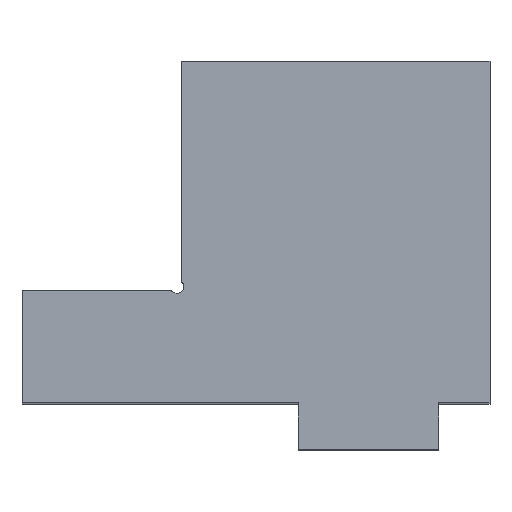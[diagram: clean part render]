
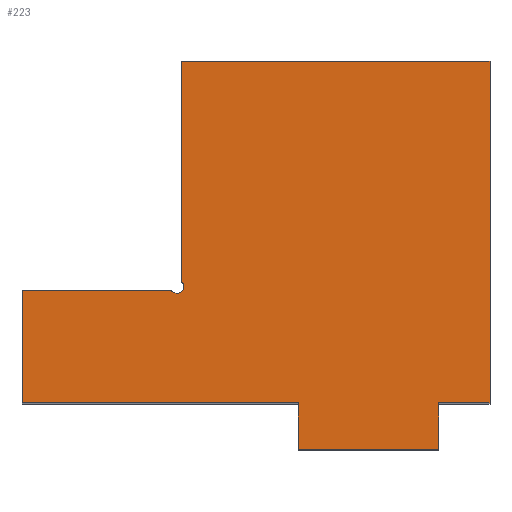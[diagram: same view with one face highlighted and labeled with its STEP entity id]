
A CAD part, top view. The second image highlights one B-rep face of the part: STEP entity #223.
In plain terms, the highlighted planar face has unit normal (0, 0, 1).
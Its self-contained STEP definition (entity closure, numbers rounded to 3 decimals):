
#223 = ADVANCED_FACE ( 'NONE', ( #941 ), #945, .T. ) ;
#224 = EDGE_LOOP ( 'NONE', ( #342, #344, #345, #348, #350, #386, #387, #388, #389, #390, #391, #392, #393, #394 ) ) ;
#230 = EDGE_CURVE ( 'NONE', #417, #423, #896, .T. ) ;
#246 = VERTEX_POINT ( 'NONE', #1257 ) ;
#261 = VERTEX_POINT ( 'NONE', #1145 ) ;
#263 = EDGE_CURVE ( 'NONE', #423, #261, #1144, .T. ) ;
#295 = VERTEX_POINT ( 'NONE', #1215 ) ;
#297 = EDGE_CURVE ( 'NONE', #377, #295, #1214, .T. ) ;
#342 = ORIENTED_EDGE ( 'NONE', *, *, #343, .F. ) ;
#343 = EDGE_CURVE ( 'NONE', #508, #295, #1104, .T. ) ;
#344 = ORIENTED_EDGE ( 'NONE', *, *, #466, .F. ) ;
#345 = ORIENTED_EDGE ( 'NONE', *, *, #346, .F. ) ;
#346 = EDGE_CURVE ( 'NONE', #347, #492, #1100, .T. ) ;
#347 = VERTEX_POINT ( 'NONE', #1095 ) ;
#348 = ORIENTED_EDGE ( 'NONE', *, *, #349, .F. ) ;
#349 = EDGE_CURVE ( 'NONE', #356, #347, #1094, .T. ) ;
#350 = ORIENTED_EDGE ( 'NONE', *, *, #355, .T. ) ;
#355 = EDGE_CURVE ( 'NONE', #356, #410, #1183, .T. ) ;
#356 = VERTEX_POINT ( 'NONE', #1179 ) ;
#377 = VERTEX_POINT ( 'NONE', #1083 ) ;
#379 = EDGE_CURVE ( 'NONE', #455, #377, #1082, .T. ) ;
#386 = ORIENTED_EDGE ( 'NONE', *, *, #409, .T. ) ;
#387 = ORIENTED_EDGE ( 'NONE', *, *, #431, .T. ) ;
#388 = ORIENTED_EDGE ( 'NONE', *, *, #230, .T. ) ;
#389 = ORIENTED_EDGE ( 'NONE', *, *, #263, .T. ) ;
#390 = ORIENTED_EDGE ( 'NONE', *, *, #407, .T. ) ;
#391 = ORIENTED_EDGE ( 'NONE', *, *, #447, .T. ) ;
#392 = ORIENTED_EDGE ( 'NONE', *, *, #457, .T. ) ;
#393 = ORIENTED_EDGE ( 'NONE', *, *, #379, .T. ) ;
#394 = ORIENTED_EDGE ( 'NONE', *, *, #297, .T. ) ;
#405 = VERTEX_POINT ( 'NONE', #1048 ) ;
#407 = EDGE_CURVE ( 'NONE', #261, #405, #1047, .T. ) ;
#409 = EDGE_CURVE ( 'NONE', #410, #246, #1043, .T. ) ;
#410 = VERTEX_POINT ( 'NONE', #1039 ) ;
#417 = VERTEX_POINT ( 'NONE', #1475 ) ;
#423 = VERTEX_POINT ( 'NONE', #1468 ) ;
#431 = EDGE_CURVE ( 'NONE', #246, #417, #1463, .T. ) ;
#445 = VERTEX_POINT ( 'NONE', #1441 ) ;
#447 = EDGE_CURVE ( 'NONE', #405, #445, #1440, .T. ) ;
#455 = VERTEX_POINT ( 'NONE', #1421 ) ;
#457 = EDGE_CURVE ( 'NONE', #445, #455, #1420, .T. ) ;
#466 = EDGE_CURVE ( 'NONE', #492, #508, #1393, .T. ) ;
#492 = VERTEX_POINT ( 'NONE', #1516 ) ;
#508 = VERTEX_POINT ( 'NONE', #1489 ) ;
#893 = DIRECTION ( 'NONE',  ( 0., -1., 0. ) ) ;
#894 = VECTOR ( 'NONE', #893, 1000. ) ;
#895 = CARTESIAN_POINT ( 'NONE',  ( -15., 10., 80.2 ) ) ;
#896 = LINE ( 'NONE', #895, #894 ) ;
#936 = DIRECTION ( 'NONE',  ( 1., 0., 0. ) ) ;
#937 = DIRECTION ( 'NONE',  ( 0., 0., 1. ) ) ;
#938 = CARTESIAN_POINT ( 'NONE',  ( -74., 10., 80.2 ) ) ;
#940 = AXIS2_PLACEMENT_3D ( 'NONE', #938, #937, #936 ) ;
#941 = FACE_OUTER_BOUND ( 'NONE', #224, .T. ) ;
#945 = PLANE ( 'NONE',  #940 ) ;
#1039 = CARTESIAN_POINT ( 'NONE',  ( -74., 34., 80.2 ) ) ;
#1040 = DIRECTION ( 'NONE',  ( 0., -1., 0. ) ) ;
#1041 = VECTOR ( 'NONE', #1040, 1000. ) ;
#1042 = CARTESIAN_POINT ( 'NONE',  ( -74., 34., 80.2 ) ) ;
#1043 = LINE ( 'NONE', #1042, #1041 ) ;
#1044 = DIRECTION ( 'NONE',  ( 0., 1., 0. ) ) ;
#1045 = VECTOR ( 'NONE', #1044, 1000. ) ;
#1046 = CARTESIAN_POINT ( 'NONE',  ( 15., 0., 80.2 ) ) ;
#1047 = LINE ( 'NONE', #1046, #1045 ) ;
#1048 = CARTESIAN_POINT ( 'NONE',  ( 15., 10., 80.2 ) ) ;
#1079 = DIRECTION ( 'NONE',  ( -1., 0., 0. ) ) ;
#1080 = VECTOR ( 'NONE', #1079, 1000. ) ;
#1081 = CARTESIAN_POINT ( 'NONE',  ( 26., 83., 80.2 ) ) ;
#1082 = LINE ( 'NONE', #1081, #1080 ) ;
#1083 = CARTESIAN_POINT ( 'NONE',  ( -40., 83., 80.2 ) ) ;
#1092 = VECTOR ( 'NONE', #1189, 1000. ) ;
#1093 = CARTESIAN_POINT ( 'NONE',  ( -42.121, 34., 80.2 ) ) ;
#1094 = LINE ( 'NONE', #1093, #1092 ) ;
#1095 = CARTESIAN_POINT ( 'NONE',  ( -41.961, 33.839, 80.2 ) ) ;
#1096 = DIRECTION ( 'NONE',  ( 1., 0., 0. ) ) ;
#1097 = DIRECTION ( 'NONE',  ( 0., 0., 1. ) ) ;
#1098 = CARTESIAN_POINT ( 'NONE',  ( -40.9, 34.9, 80.2 ) ) ;
#1099 = AXIS2_PLACEMENT_3D ( 'NONE', #1098, #1097, #1096 ) ;
#1100 = CIRCLE ( 'NONE', #1099, 1.5 ) ;
#1101 = DIRECTION ( 'NONE',  ( -0.707, 0.707, 0. ) ) ;
#1102 = VECTOR ( 'NONE', #1101, 1000. ) ;
#1103 = CARTESIAN_POINT ( 'NONE',  ( -40., 36.121, 80.2 ) ) ;
#1104 = LINE ( 'NONE', #1103, #1102 ) ;
#1141 = DIRECTION ( 'NONE',  ( 1., 0., 0. ) ) ;
#1142 = VECTOR ( 'NONE', #1141, 1000. ) ;
#1143 = CARTESIAN_POINT ( 'NONE',  ( -15., 0., 80.2 ) ) ;
#1144 = LINE ( 'NONE', #1143, #1142 ) ;
#1145 = CARTESIAN_POINT ( 'NONE',  ( 15., 0., 80.2 ) ) ;
#1179 = CARTESIAN_POINT ( 'NONE',  ( -42.121, 34., 80.2 ) ) ;
#1180 = DIRECTION ( 'NONE',  ( -1., 0., 0. ) ) ;
#1181 = VECTOR ( 'NONE', #1180, 1000. ) ;
#1182 = CARTESIAN_POINT ( 'NONE',  ( -74., 34., 80.2 ) ) ;
#1183 = LINE ( 'NONE', #1182, #1181 ) ;
#1189 = DIRECTION ( 'NONE',  ( 0.707, -0.707, 0. ) ) ;
#1211 = DIRECTION ( 'NONE',  ( 0., -1., 0. ) ) ;
#1212 = VECTOR ( 'NONE', #1211, 1000. ) ;
#1213 = CARTESIAN_POINT ( 'NONE',  ( -40., 83., 80.2 ) ) ;
#1214 = LINE ( 'NONE', #1213, #1212 ) ;
#1215 = CARTESIAN_POINT ( 'NONE',  ( -40., 36.121, 80.2 ) ) ;
#1257 = CARTESIAN_POINT ( 'NONE',  ( -74., 10., 80.2 ) ) ;
#1389 = DIRECTION ( 'NONE',  ( 1., 0., 0. ) ) ;
#1390 = DIRECTION ( 'NONE',  ( 0., 0., 1. ) ) ;
#1391 = CARTESIAN_POINT ( 'NONE',  ( -40.9, 34.9, 80.2 ) ) ;
#1392 = AXIS2_PLACEMENT_3D ( 'NONE', #1391, #1390, #1389 ) ;
#1393 = CIRCLE ( 'NONE', #1392, 1.5 ) ;
#1417 = DIRECTION ( 'NONE',  ( 0., 1., 0. ) ) ;
#1418 = VECTOR ( 'NONE', #1417, 1000. ) ;
#1419 = CARTESIAN_POINT ( 'NONE',  ( 26., 10., 80.2 ) ) ;
#1420 = LINE ( 'NONE', #1419, #1418 ) ;
#1421 = CARTESIAN_POINT ( 'NONE',  ( 26., 83., 80.2 ) ) ;
#1437 = DIRECTION ( 'NONE',  ( 1., 0., 0. ) ) ;
#1438 = VECTOR ( 'NONE', #1437, 1000. ) ;
#1439 = CARTESIAN_POINT ( 'NONE',  ( 15., 10., 80.2 ) ) ;
#1440 = LINE ( 'NONE', #1439, #1438 ) ;
#1441 = CARTESIAN_POINT ( 'NONE',  ( 26., 10., 80.2 ) ) ;
#1460 = DIRECTION ( 'NONE',  ( 1., 0., 0. ) ) ;
#1461 = VECTOR ( 'NONE', #1460, 1000. ) ;
#1462 = CARTESIAN_POINT ( 'NONE',  ( -74., 10., 80.2 ) ) ;
#1463 = LINE ( 'NONE', #1462, #1461 ) ;
#1468 = CARTESIAN_POINT ( 'NONE',  ( -15., 0., 80.2 ) ) ;
#1475 = CARTESIAN_POINT ( 'NONE',  ( -15., 10., 80.2 ) ) ;
#1489 = CARTESIAN_POINT ( 'NONE',  ( -39.839, 35.961, 80.2 ) ) ;
#1516 = CARTESIAN_POINT ( 'NONE',  ( -39.4, 34.9, 80.2 ) ) ;
